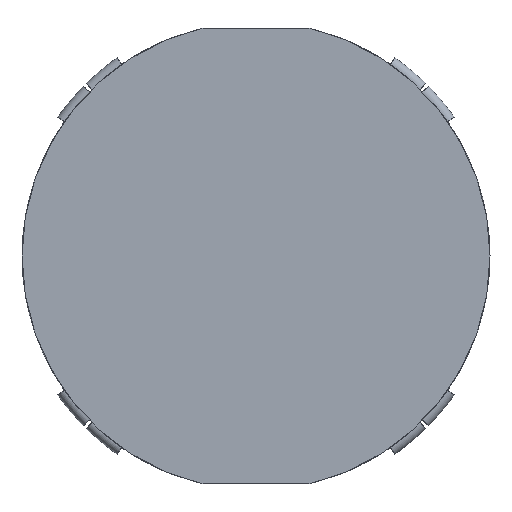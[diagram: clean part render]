
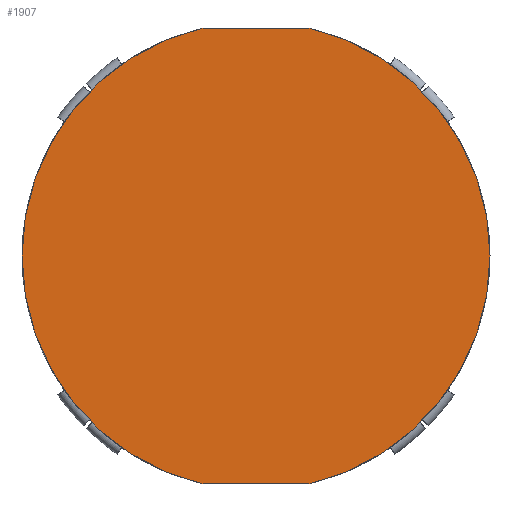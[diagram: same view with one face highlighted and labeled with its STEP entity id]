
A CAD part, front view. The second image highlights one B-rep face of the part: STEP entity #1907.
In plain terms, the highlighted planar face has unit normal (0, -1, 0).
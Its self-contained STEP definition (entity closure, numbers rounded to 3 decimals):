
#338 = AXIS2_PLACEMENT_3D ( 'NONE', #1297, #3088, #604 ) ;
#379 =( BOUNDED_CURVE ( )  B_SPLINE_CURVE ( 3, ( #982, #1020, #409, #3460 ),
 .UNSPECIFIED., .F., .F. ) 
 B_SPLINE_CURVE_WITH_KNOTS ( ( 4, 4 ),
 ( 4.165, 5.26 ),
 .UNSPECIFIED. ) 
 CURVE ( )  GEOMETRIC_REPRESENTATION_ITEM ( )  RATIONAL_B_SPLINE_CURVE ( ( 1., 0.902, 0.902, 1. ) ) 
 REPRESENTATION_ITEM ( '' )  );
#409 = CARTESIAN_POINT ( 'NONE',  ( -1.924, 0., -22.262 ) ) ;
#604 = DIRECTION ( 'NONE',  ( 0., 0., 1. ) ) ;
#619 = CARTESIAN_POINT ( 'NONE',  ( 0., 0., 0. ) ) ;
#657 = ORIENTED_EDGE ( 'NONE', *, *, #2216, .F. ) ;
#686 = DIRECTION ( 'NONE',  ( 0., 1., 0. ) ) ;
#701 = EDGE_CURVE ( 'NONE', #3267, #2824, #3054, .T. ) ;
#766 = ORIENTED_EDGE ( 'NONE', *, *, #701, .F. ) ;
#812 = AXIS2_PLACEMENT_3D ( 'NONE', #1257, #686, #3404 ) ;
#982 = CARTESIAN_POINT ( 'NONE',  ( 5.209, 0., -22.402 ) ) ;
#1020 = CARTESIAN_POINT ( 'NONE',  ( 1.924, 0., -22.262 ) ) ;
#1155 = CIRCLE ( 'NONE', #338, 23. ) ;
#1223 = PLANE ( 'NONE',  #812 ) ;
#1257 = CARTESIAN_POINT ( 'NONE',  ( 0., 0., 0. ) ) ;
#1266 = VERTEX_POINT ( 'NONE', #1348 ) ;
#1297 = CARTESIAN_POINT ( 'NONE',  ( 0., 0., 0. ) ) ;
#1348 = CARTESIAN_POINT ( 'NONE',  ( -5.209, 0., -22.402 ) ) ;
#1392 = CARTESIAN_POINT ( 'NONE',  ( 5.209, 0., -22.402 ) ) ;
#1406 = EDGE_CURVE ( 'NONE', #1266, #3267, #3607, .T. ) ;
#1500 = ORIENTED_EDGE ( 'NONE', *, *, #3618, .F. ) ;
#1907 = ADVANCED_FACE ( 'NONE', ( #3073 ), #1223, .F. ) ;
#2051 = ORIENTED_EDGE ( 'NONE', *, *, #1406, .F. ) ;
#2107 = AXIS2_PLACEMENT_3D ( 'NONE', #619, #2458, #3541 ) ;
#2216 = EDGE_CURVE ( 'NONE', #2824, #3472, #1155, .T. ) ;
#2458 = DIRECTION ( 'NONE',  ( 0., 1., 0. ) ) ;
#2824 = VERTEX_POINT ( 'NONE', #3203 ) ;
#3054 =( BOUNDED_CURVE ( )  B_SPLINE_CURVE ( 3, ( #3120, #3689, #3063, #3082 ),
 .UNSPECIFIED., .F., .F. ) 
 B_SPLINE_CURVE_WITH_KNOTS ( ( 4, 4 ),
 ( 4.165, 5.26 ),
 .UNSPECIFIED. ) 
 CURVE ( )  GEOMETRIC_REPRESENTATION_ITEM ( )  RATIONAL_B_SPLINE_CURVE ( ( 1., 0.902, 0.902, 1. ) ) 
 REPRESENTATION_ITEM ( '' )  );
#3063 = CARTESIAN_POINT ( 'NONE',  ( 1.924, 0., 22.262 ) ) ;
#3073 = FACE_OUTER_BOUND ( 'NONE', #3097, .T. ) ;
#3082 = CARTESIAN_POINT ( 'NONE',  ( 5.209, 0., 22.402 ) ) ;
#3088 = DIRECTION ( 'NONE',  ( 0., 1., 0. ) ) ;
#3097 = EDGE_LOOP ( 'NONE', ( #2051, #1500, #657, #766 ) ) ;
#3120 = CARTESIAN_POINT ( 'NONE',  ( -5.209, 0., 22.402 ) ) ;
#3203 = CARTESIAN_POINT ( 'NONE',  ( 5.209, 0., 22.402 ) ) ;
#3267 = VERTEX_POINT ( 'NONE', #3574 ) ;
#3404 = DIRECTION ( 'NONE',  ( 0., 0., 1. ) ) ;
#3460 = CARTESIAN_POINT ( 'NONE',  ( -5.209, 0., -22.402 ) ) ;
#3472 = VERTEX_POINT ( 'NONE', #1392 ) ;
#3541 = DIRECTION ( 'NONE',  ( 0., 0., 1. ) ) ;
#3574 = CARTESIAN_POINT ( 'NONE',  ( -5.209, 0., 22.402 ) ) ;
#3607 = CIRCLE ( 'NONE', #2107, 23. ) ;
#3618 = EDGE_CURVE ( 'NONE', #3472, #1266, #379, .T. ) ;
#3689 = CARTESIAN_POINT ( 'NONE',  ( -1.924, 0., 22.262 ) ) ;
